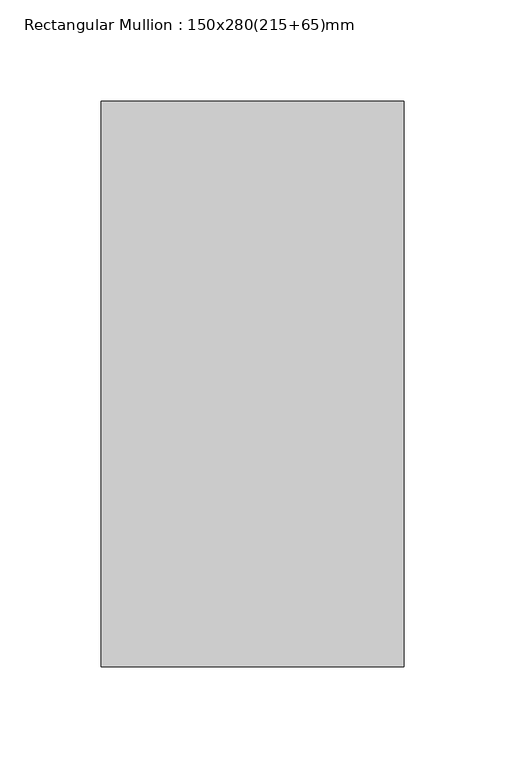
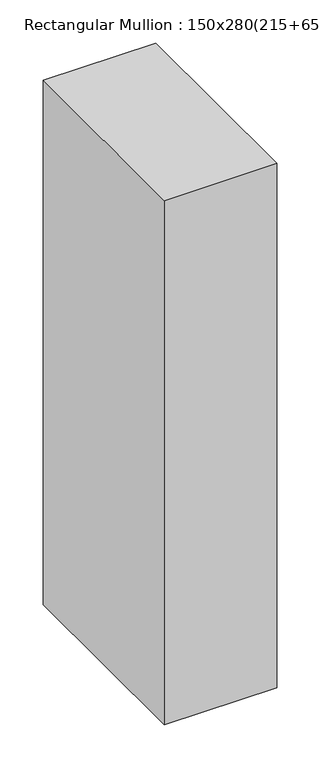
"""IFC4 building model written with IfcOpenShell, lengths in millimetres: member geometry, Rectangular Mullion : 150x280(215+65)mm."""

from ifc_helpers import new_model, si_unit, frame, origin, place, context, project, spatial, polyline, outline, extrude, source, transform, mapped, element, save


def rectangular_mullion_150x280_215_65_mm_b2a77f73(model_context):
    return source(origin(), model_context, "Body", "SweptSolid", [
        extrude(outline(polyline([(75.0, 215.0), (75.0, -65.0), (-75.0, -65.0), (-75.0, 215.0), (75.0, 215.0)])), frame((0.0, 0.0, -740.0), z_axis=(0.0, 0.0, 1.0), x_axis=(1.0, 0.0, 0.0)), (0.0, 0.0, 1.0), 740.0),
    ])


if __name__ == "__main__":
    model = new_model("IFC4")
    model_context = context("Model", 3, world=origin())
    ifc_project = project(units=[si_unit("LENGTHUNIT", "METRE", prefix="MILLI")], contexts=[model_context])
    site = spatial("IfcSite", under=ifc_project)
    building = spatial("IfcBuilding", under=site)
    placement = place(None, origin())
    rectangular_mullion_150x280_215_65_mm_shape = rectangular_mullion_150x280_215_65_mm_b2a77f73(model_context)
    element("IfcMember", 1, ObjectType="Rectangular Mullion : 150x280(215+65)mm", at=placement, inside=building, context=model_context, shape_type="MappedRepresentation", body=[
        mapped(rectangular_mullion_150x280_215_65_mm_shape, transform((0.0, 0.0, 0.0), x_axis=(1.0, 0.0, 0.0), y_axis=(0.0, 1.0, 0.0), z_axis=(0.0, 0.0, 1.0))),
    ])
    save(model, "model.ifc")
